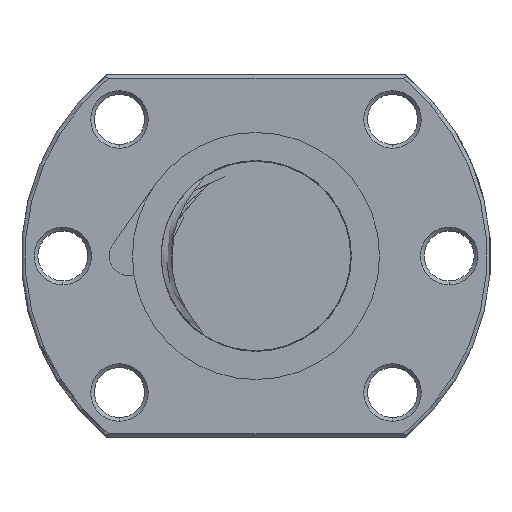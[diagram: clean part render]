
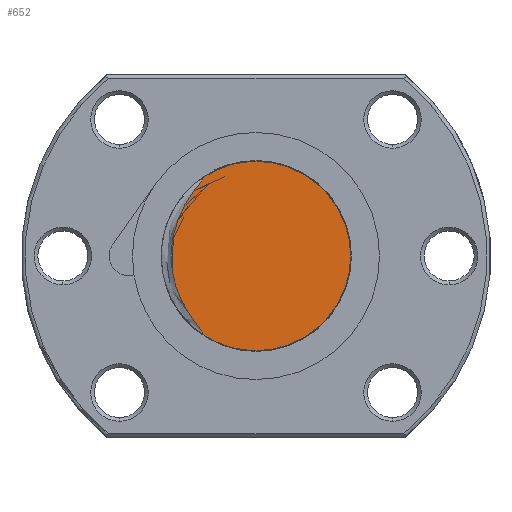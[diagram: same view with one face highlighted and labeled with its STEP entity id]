
A CAD part, left-side view. The second image highlights one B-rep face of the part: STEP entity #652.
In plain terms, the highlighted planar face has unit normal (-1, 0, 0).
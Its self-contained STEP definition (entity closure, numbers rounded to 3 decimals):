
#170 = VERTEX_POINT ( 'NONE', #2769 ) ;
#252 = EDGE_CURVE ( 'NONE', #253, #254, #3571, .T. ) ;
#253 = VERTEX_POINT ( 'NONE', #3567 ) ;
#254 = VERTEX_POINT ( 'NONE', #3566 ) ;
#265 = VERTEX_POINT ( 'NONE', #3769 ) ;
#330 = EDGE_CURVE ( 'NONE', #254, #170, #4328, .T. ) ;
#367 = EDGE_CURVE ( 'NONE', #170, #265, #4796, .T. ) ;
#652 = ADVANCED_FACE ( 'NONE', ( #20746 ), #20745, .F. ) ;
#653 = EDGE_LOOP ( 'NONE', ( #654, #655, #657, #658 ) ) ;
#654 = ORIENTED_EDGE ( 'NONE', *, *, #252, .F. ) ;
#655 = ORIENTED_EDGE ( 'NONE', *, *, #656, .T. ) ;
#656 = EDGE_CURVE ( 'NONE', #253, #265, #20738, .T. ) ;
#657 = ORIENTED_EDGE ( 'NONE', *, *, #367, .F. ) ;
#658 = ORIENTED_EDGE ( 'NONE', *, *, #330, .F. ) ;
#2769 = CARTESIAN_POINT ( 'NONE',  ( -150., 0., -12.5 ) ) ;
#3566 = CARTESIAN_POINT ( 'NONE',  ( -150., 0., 12.5 ) ) ;
#3567 = CARTESIAN_POINT ( 'NONE',  ( -150., 6.885, 10.433 ) ) ;
#3568 = DIRECTION ( 'NONE',  ( 0., 1., 0. ) ) ;
#3569 = DIRECTION ( 'NONE',  ( 1., 0., 0. ) ) ;
#3570 = AXIS2_PLACEMENT_3D ( 'NONE', #3576, #3569, #3568 ) ;
#3571 = CIRCLE ( 'NONE', #3570, 12.5 ) ;
#3576 = CARTESIAN_POINT ( 'NONE',  ( -150., 0., 0. ) ) ;
#3769 = CARTESIAN_POINT ( 'NONE',  ( -150., 6.887, -10.432 ) ) ;
#4320 = DIRECTION ( 'NONE',  ( 0., 1., 0. ) ) ;
#4321 = DIRECTION ( 'NONE',  ( 1., 0., 0. ) ) ;
#4322 = CARTESIAN_POINT ( 'NONE',  ( -150., 0., 0. ) ) ;
#4323 = AXIS2_PLACEMENT_3D ( 'NONE', #4322, #4321, #4320 ) ;
#4328 = CIRCLE ( 'NONE', #4323, 12.5 ) ;
#4792 = DIRECTION ( 'NONE',  ( 0., 1., 0. ) ) ;
#4793 = DIRECTION ( 'NONE',  ( 1., 0., 0. ) ) ;
#4794 = CARTESIAN_POINT ( 'NONE',  ( -150., 0., 0. ) ) ;
#4795 = AXIS2_PLACEMENT_3D ( 'NONE', #4794, #4793, #4792 ) ;
#4796 = CIRCLE ( 'NONE', #4795, 12.5 ) ;
#20730 = CARTESIAN_POINT ( 'NONE',  ( -150., 7.984, 8.851 ) ) ;
#20731 = CARTESIAN_POINT ( 'NONE',  ( -150., 7.547, 9.428 ) ) ;
#20732 = CARTESIAN_POINT ( 'NONE',  ( -150., 7.401, 9.62 ) ) ;
#20733 = CARTESIAN_POINT ( 'NONE',  ( -150., 7.191, 9.914 ) ) ;
#20734 = CARTESIAN_POINT ( 'NONE',  ( -150., 7.122, 10.013 ) ) ;
#20735 = CARTESIAN_POINT ( 'NONE',  ( -150., 6.993, 10.217 ) ) ;
#20736 = CARTESIAN_POINT ( 'NONE',  ( -150., 6.932, 10.322 ) ) ;
#20737 = CARTESIAN_POINT ( 'NONE',  ( -150., 6.885, 10.433 ) ) ;
#20738 = B_SPLINE_CURVE_WITH_KNOTS ( 'NONE', 3,
 ( #20737, #20736, #20735, #20734, #20733, #20732, #20731, #20730, #20850, #20849, #20848, #20847, #20846, #20845, #20844, #20843, #20842, #20841, #20840, #20839, #20838, #20837, #20836, #20835, #20834, #20833, #20832, #20831, #20830, #20829, #20828, #20827, #20826, #20825, #20824, #20823 ),
 .UNSPECIFIED., .F., .F.,
 ( 4, 2, 2, 2, 2, 2, 2, 2, 2, 2, 2, 2, 2, 2, 2, 2, 2, 4 ),
 ( 0.008, 0.008, 0.009, 0.009, 0.011, 0.014, 0.015, 0.017, 0.019, 0.021, 0.022, 0.024, 0.025, 0.028, 0.03, 0.03, 0.031, 0.031 ),
 .UNSPECIFIED. ) ;
#20741 = DIRECTION ( 'NONE',  ( 0., 0., -1. ) ) ;
#20742 = DIRECTION ( 'NONE',  ( 1., 0., 0. ) ) ;
#20743 = CARTESIAN_POINT ( 'NONE',  ( -150., 0., 0. ) ) ;
#20744 = AXIS2_PLACEMENT_3D ( 'NONE', #20743, #20742, #20741 ) ;
#20745 = PLANE ( 'NONE',  #20744 ) ;
#20746 = FACE_OUTER_BOUND ( 'NONE', #653, .T. ) ;
#20823 = CARTESIAN_POINT ( 'NONE',  ( -150., 6.887, -10.432 ) ) ;
#20824 = CARTESIAN_POINT ( 'NONE',  ( -150., 6.934, -10.321 ) ) ;
#20825 = CARTESIAN_POINT ( 'NONE',  ( -150., 6.996, -10.216 ) ) ;
#20826 = CARTESIAN_POINT ( 'NONE',  ( -150., 7.125, -10.013 ) ) ;
#20827 = CARTESIAN_POINT ( 'NONE',  ( -150., 7.193, -9.914 ) ) ;
#20828 = CARTESIAN_POINT ( 'NONE',  ( -150., 7.403, -9.621 ) ) ;
#20829 = CARTESIAN_POINT ( 'NONE',  ( -150., 7.548, -9.429 ) ) ;
#20830 = CARTESIAN_POINT ( 'NONE',  ( -150., 7.983, -8.853 ) ) ;
#20831 = CARTESIAN_POINT ( 'NONE',  ( -150., 8.27, -8.468 ) ) ;
#20832 = CARTESIAN_POINT ( 'NONE',  ( -150., 9.086, -7.284 ) ) ;
#20833 = CARTESIAN_POINT ( 'NONE',  ( -150., 9.57, -6.461 ) ) ;
#20834 = CARTESIAN_POINT ( 'NONE',  ( -150., 10.172, -5.152 ) ) ;
#20835 = CARTESIAN_POINT ( 'NONE',  ( -150., 10.353, -4.701 ) ) ;
#20836 = CARTESIAN_POINT ( 'NONE',  ( -150., 10.663, -3.786 ) ) ;
#20837 = CARTESIAN_POINT ( 'NONE',  ( -150., 10.792, -3.324 ) ) ;
#20838 = CARTESIAN_POINT ( 'NONE',  ( -150., 10.999, -2.389 ) ) ;
#20839 = CARTESIAN_POINT ( 'NONE',  ( -150., 11.078, -1.917 ) ) ;
#20840 = CARTESIAN_POINT ( 'NONE',  ( -150., 11.183, -0.964 ) ) ;
#20841 = CARTESIAN_POINT ( 'NONE',  ( -150., 11.21, -0.48 ) ) ;
#20842 = CARTESIAN_POINT ( 'NONE',  ( -150., 11.21, 0.971 ) ) ;
#20843 = CARTESIAN_POINT ( 'NONE',  ( -150., 11.105, 1.92 ) ) ;
#20844 = CARTESIAN_POINT ( 'NONE',  ( -150., 10.793, 3.315 ) ) ;
#20845 = CARTESIAN_POINT ( 'NONE',  ( -150., 10.664, 3.776 ) ) ;
#20846 = CARTESIAN_POINT ( 'NONE',  ( -150., 10.355, 4.689 ) ) ;
#20847 = CARTESIAN_POINT ( 'NONE',  ( -150., 10.175, 5.141 ) ) ;
#20848 = CARTESIAN_POINT ( 'NONE',  ( -150., 9.576, 6.453 ) ) ;
#20849 = CARTESIAN_POINT ( 'NONE',  ( -150., 9.093, 7.279 ) ) ;
#20850 = CARTESIAN_POINT ( 'NONE',  ( -150., 8.274, 8.465 ) ) ;
